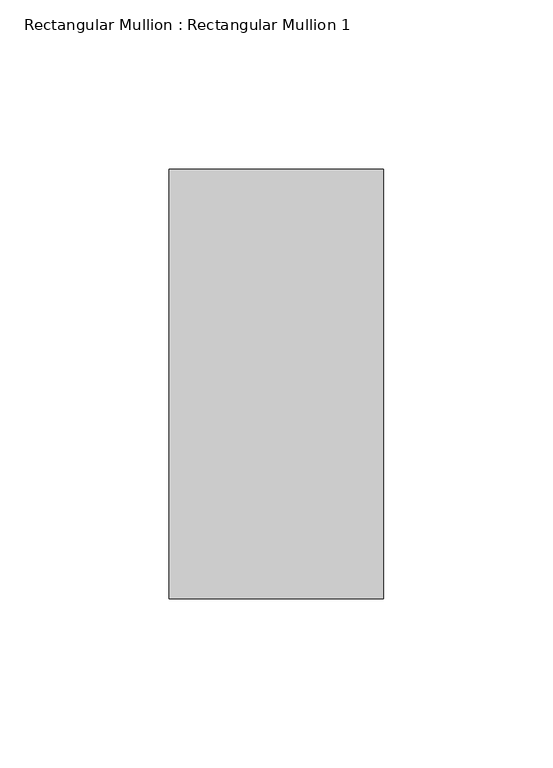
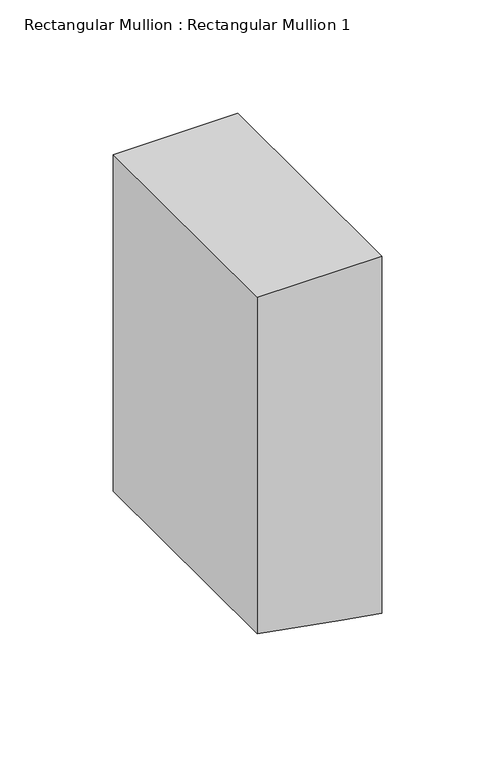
"""IFC4 building model written with IfcOpenShell, lengths in millimetres: member geometry, Rectangular Mullion : Rectangular Mullion 1."""

import ifcopenshell
import ifcopenshell.guid

model = None  # the IFC model being written
_history = None  # IfcOwnerHistory: only IFC2X3 demands one
_inside = {}  # id of a spatial element -> (the spatial element, [elements in it])
_under = {}  # id of a project, library or spatial element -> (it, [spatial elements below it])
_declared = {}  # id of a project -> (the project, [libraries it declares])
_typed = {}  # id of a type object -> (the type object, [elements of that type])
_made_of = {}  # id of a material, layer set ... -> (it, [elements and type objects made of it])


def new_model(schema):
    """Start an empty IFC model of exactly this schema.

    Asked for "IFC4X3", IfcOpenShell would pick the latest addendum, in which some entities
    have other attributes; the version numbers below select the first issue.
    IFC2X3 requires an IfcOwnerHistory on every rooted entity: one is made here for all.
    """
    global model, _history
    if schema == "IFC4X3":
        model = ifcopenshell.file(schema_version=(4, 3, 0, 0))
    else:
        model = ifcopenshell.file(schema=schema)
    _inside.clear()
    _under.clear()
    _declared.clear()
    _typed.clear()
    _made_of.clear()
    _history = None
    if model.schema == "IFC2X3":
        org = make("IfcOrganization", Name="unknown")
        user = make(
            "IfcPersonAndOrganization",
            ThePerson=make("IfcPerson", FamilyName="unknown"),
            TheOrganization=org,
        )
        app = make(
            "IfcApplication",
            ApplicationDeveloper=org,
            Version="unknown",
            ApplicationFullName="unknown",
            ApplicationIdentifier="unknown",
        )
        _history = make(
            "IfcOwnerHistory",
            OwningUser=user,
            OwningApplication=app,
            ChangeAction="ADDED",
            CreationDate=0,
        )
    return model


def make(cls, **values):
    """One entity of the class cls with the attributes given. An attribute that is None is left unset."""
    return model.create_entity(
        cls, **{name: value for name, value in values.items() if value is not None}
    )


def rooted(cls, **values):
    """An entity with a GlobalId (a new one), such as an element, a storey or a relation."""
    return make(cls, GlobalId=ifcopenshell.guid.new(), OwnerHistory=_history, **values)


def si_unit(unit_type, name, prefix=None):
    """IfcSIUnit, for example si_unit("LENGTHUNIT", "METRE", prefix="MILLI")."""
    return make("IfcSIUnit", UnitType=unit_type, Prefix=prefix, Name=name)


def assignment(units):
    """IfcUnitAssignment: the units of a project."""
    return None if units is None else make("IfcUnitAssignment", Units=units)


def point(xyz):
    """IfcCartesianPoint."""
    return None if xyz is None else make("IfcCartesianPoint", Coordinates=xyz)


def direction(xyz):
    """IfcDirection."""
    return None if xyz is None else make("IfcDirection", DirectionRatios=xyz)


def frame(location, z_axis=None, x_axis=None):
    """IfcAxis2Placement3D, a coordinate frame: its origin and axes. An axis left out is left unset."""
    return make(
        "IfcAxis2Placement3D",
        Location=point(location),
        Axis=direction(z_axis),
        RefDirection=direction(x_axis),
    )


def origin():
    """The frame at (0, 0, 0) with its axes left unset."""
    return frame((0.0, 0.0, 0.0))


def place(relative_to, where):
    """IfcLocalPlacement: puts the frame where relative to a parent placement (None: the world)."""
    return make(
        "IfcLocalPlacement", PlacementRelTo=relative_to, RelativePlacement=where
    )


def context(
    kind, dimensions, precision=None, world=None, true_north=None, identifier=None
):
    """IfcGeometricRepresentationContext, for example the 3D "Model" context."""
    return make(
        "IfcGeometricRepresentationContext",
        ContextIdentifier=identifier,
        ContextType=kind,
        CoordinateSpaceDimension=dimensions,
        Precision=precision,
        WorldCoordinateSystem=world,
        TrueNorth=true_north,
    )


def project(units=None, contexts=None):
    """IfcProject with its units and contexts."""
    return rooted(
        "IfcProject",
        Name="project",
        RepresentationContexts=contexts,
        UnitsInContext=assignment(units),
    )


def spatial(cls, under=None, at=None, **own):
    """A site, building, storey or space (cls), placed at a placement, below another one or the project."""
    s = rooted(cls, ObjectPlacement=at, **own)
    if under is not None:
        _under.setdefault(under.id(), (under, []))[1].append(s)
    return s


def polyline(points):
    """IfcPolyline through the points."""
    return make("IfcPolyline", Points=[point(p) for p in points])


def outline(outer, holes=None, kind="AREA"):
    """IfcArbitraryClosedProfileDef: a profile drawn as a closed curve; with holes, ...WithVoids."""
    if holes is None:
        return make("IfcArbitraryClosedProfileDef", ProfileType=kind, OuterCurve=outer)
    return make(
        "IfcArbitraryProfileDefWithVoids",
        ProfileType=kind,
        OuterCurve=outer,
        InnerCurves=holes,
    )


def extrude(swept, where, along, depth):
    """IfcExtrudedAreaSolid: the profile swept, set in the frame where, extruded along a direction by depth."""
    return make(
        "IfcExtrudedAreaSolid",
        SweptArea=swept,
        Position=where,
        ExtrudedDirection=direction(along),
        Depth=depth,
    )


def shape(context_of_items, identifier, shape_type, items):
    """IfcShapeRepresentation: the items that make up one representation, for example the "Body"."""
    return make(
        "IfcShapeRepresentation",
        ContextOfItems=context_of_items,
        RepresentationIdentifier=identifier,
        RepresentationType=shape_type,
        Items=items,
    )


def source(mapping_origin, context_of_items, identifier, shape_type, items):
    """IfcRepresentationMap: a shape defined once, which mapped items show again and again."""
    return make(
        "IfcRepresentationMap",
        MappingOrigin=mapping_origin,
        MappedRepresentation=shape(context_of_items, identifier, shape_type, items),
    )


def transform(
    local_origin,
    x_axis=None,
    y_axis=None,
    z_axis=None,
    scale=None,
    scale2=None,
    scale3=None,
    uniform=True,
):
    """IfcCartesianTransformationOperator3D, or its non-uniform kind. x_axis, y_axis, z_axis: its Axis1, 2, 3."""
    if uniform:
        return make(
            "IfcCartesianTransformationOperator3D",
            Axis1=direction(x_axis),
            Axis2=direction(y_axis),
            LocalOrigin=point(local_origin),
            Scale=scale,
            Axis3=direction(z_axis),
        )
    return make(
        "IfcCartesianTransformationOperator3DnonUniform",
        Axis1=direction(x_axis),
        Axis2=direction(y_axis),
        LocalOrigin=point(local_origin),
        Scale=scale,
        Axis3=direction(z_axis),
        Scale2=scale2,
        Scale3=scale3,
    )


def mapped(mapping_source, mapping_target):
    """IfcMappedItem: shows the shape of a source again, moved by a transform."""
    return make(
        "IfcMappedItem", MappingSource=mapping_source, MappingTarget=mapping_target
    )


def made_of(thing, what):
    """Note that an element or type object is made of a material, layer set ...; save() writes the relation."""
    if what is not None:
        _made_of.setdefault(what.id(), (what, []))[1].append(thing)
    return thing


def element(
    cls,
    number,
    at=None,
    inside=None,
    cuts=None,
    type_object=None,
    material=None,
    context=None,
    identifier="Body",
    shape_type=None,
    held_by="IfcProductDefinitionShape",
    body=None,
    shapes=None,
    **own,
):
    """One element of the class cls, such as IfcWall. Its Tag is "e" and its number.

    at: its placement. inside: the storey or other place that contains it. cuts: it is an
    opening in that element (IfcRelVoidsElement). A single representation is given by context,
    identifier, shape_type and body (its items); several are given by shapes. held_by: the class
    of the entity that holds the representations. save() writes the other relations.
    """
    e = rooted(cls, Tag="e%d" % number, ObjectPlacement=at, **own)
    if body is not None:
        shapes = [shape(context, identifier, shape_type, body)]
    if shapes is not None:
        e.Representation = make(held_by, Representations=shapes)
    if inside is not None:
        _inside.setdefault(inside.id(), (inside, []))[1].append(e)
    if cuts is not None:
        rooted(
            "IfcRelVoidsElement", RelatingBuildingElement=cuts, RelatedOpeningElement=e
        )
    if type_object is not None:
        _typed.setdefault(type_object.id(), (type_object, []))[1].append(e)
    return made_of(e, material)


def aggregate(whole, parts):
    """IfcRelAggregates: a whole, such as a stair, and the parts it consists of."""
    return rooted("IfcRelAggregates", RelatingObject=whole, RelatedObjects=parts)


def save(model, path):
    """Write the relations noted so far, then the file.

    IfcRelAggregates (storeys below a building ...), IfcRelContainedInSpatialStructure (elements
    in a storey), IfcRelDefinesByType, IfcRelAssociatesMaterial and IfcRelDeclares: one each for
    every whole, place, type object, material and project.
    """
    for whole, parts in _under.values():
        aggregate(whole, parts)
    for where, things in _inside.values():
        rooted(
            "IfcRelContainedInSpatialStructure",
            RelatedElements=things,
            RelatingStructure=where,
        )
    for kind, things in _typed.values():
        rooted("IfcRelDefinesByType", RelatedObjects=things, RelatingType=kind)
    for what, things in _made_of.values():
        rooted("IfcRelAssociatesMaterial", RelatedObjects=things, RelatingMaterial=what)
    for by, libraries in _declared.values():
        rooted("IfcRelDeclares", RelatingContext=by, RelatedDefinitions=libraries)
    model.write(path)


def rectangular_mullion_rectangular_mullion_1_b08400bc(model_context):
    return source(origin(), model_context, "Body", "SweptSolid", [
        extrude(outline(polyline([(0.0, 31.75), (0.0, -31.75), (-181.352524, -31.75), (-188.8952032, 11.0266593), (-192.5492873, 31.75), (0.0, 31.75)])), frame((0.0, -63.5, 0.0), z_axis=(0.0, 1.0, 0.0), x_axis=(0.0, 0.0, 1.0)), (0.0, 0.0, 1.0), 127.0),
    ])


if __name__ == "__main__":
    model = new_model("IFC4")
    model_context = context("Model", 3, world=origin())
    ifc_project = project(units=[si_unit("LENGTHUNIT", "METRE", prefix="MILLI")], contexts=[model_context])
    site = spatial("IfcSite", under=ifc_project)
    building = spatial("IfcBuilding", under=site)
    placement = place(None, origin())
    rectangular_mullion_rectangular_mullion_1_shape = rectangular_mullion_rectangular_mullion_1_b08400bc(model_context)
    element("IfcMember", 1, ObjectType="Rectangular Mullion : Rectangular Mullion 1", at=placement, inside=building, context=model_context, shape_type="MappedRepresentation", body=[
        mapped(rectangular_mullion_rectangular_mullion_1_shape, transform((0.0, 0.0, 0.0), x_axis=(1.0, 0.0, 0.0), y_axis=(0.0, 1.0, 0.0), z_axis=(0.0, 0.0, 1.0))),
    ])
    save(model, "model.ifc")
